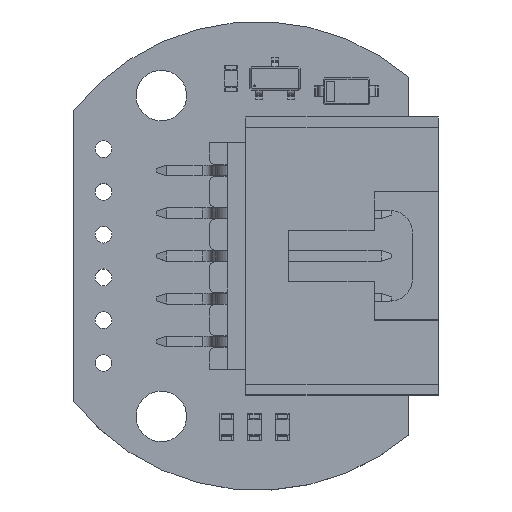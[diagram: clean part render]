
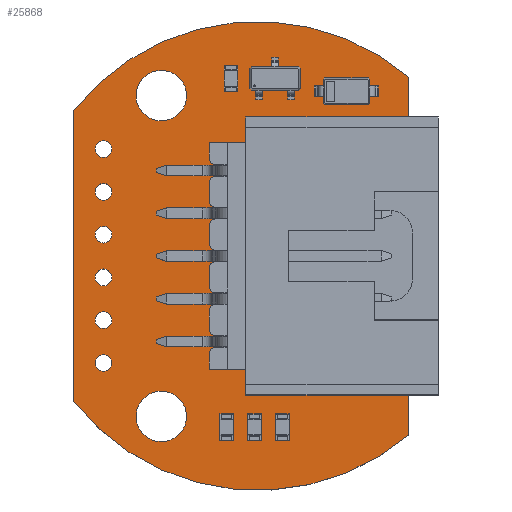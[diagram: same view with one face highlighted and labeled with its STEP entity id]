
A CAD part, top view. The second image highlights one B-rep face of the part: STEP entity #25868.
In plain terms, the highlighted planar face has unit normal (0, 0, 1).
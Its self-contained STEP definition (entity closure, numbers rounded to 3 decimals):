
#25643 = VERTEX_POINT('',#25644);
#25644 = CARTESIAN_POINT('',(219.639,-114.939,1.51));
#25650 = EDGE_CURVE('',#25643,#25651,#25653,.T.);
#25651 = VERTEX_POINT('',#25652);
#25652 = CARTESIAN_POINT('',(239.543,-112.942,1.51));
#25653 = CIRCLE('',#25654,13.91);
#25654 = AXIS2_PLACEMENT_3D('',#25655,#25656,#25657);
#25655 = CARTESIAN_POINT('',(230.556,-123.558,1.51));
#25656 = DIRECTION('',(0.,0.,-1.));
#25657 = DIRECTION('',(-0.785,0.62,0.));
#25685 = VERTEX_POINT('',#25686);
#25686 = CARTESIAN_POINT('',(219.642,-132.213,1.51));
#25692 = EDGE_CURVE('',#25685,#25643,#25693,.T.);
#25693 = LINE('',#25694,#25695);
#25694 = CARTESIAN_POINT('',(219.642,-132.213,1.51));
#25695 = VECTOR('',#25696,1.);
#25696 = DIRECTION('',(0.,1.,0.));
#25714 = EDGE_CURVE('',#25651,#25715,#25717,.T.);
#25715 = VERTEX_POINT('',#25716);
#25716 = CARTESIAN_POINT('',(239.543,-134.2,1.51));
#25717 = LINE('',#25718,#25719);
#25718 = CARTESIAN_POINT('',(239.543,-112.942,1.51));
#25719 = VECTOR('',#25720,1.);
#25720 = DIRECTION('',(0.,-1.,0.));
#25868 = ADVANCED_FACE('',(#25869,#25881,#25892,#25903,#25914,#25925,
    #25936,#25947,#25958,#25969,#25980),#25991,.T.);
#25869 = FACE_BOUND('',#25870,.T.);
#25870 = EDGE_LOOP('',(#25871,#25872,#25873,#25880));
#25871 = ORIENTED_EDGE('',*,*,#25650,.F.);
#25872 = ORIENTED_EDGE('',*,*,#25692,.F.);
#25873 = ORIENTED_EDGE('',*,*,#25874,.F.);
#25874 = EDGE_CURVE('',#25715,#25685,#25875,.T.);
#25875 = CIRCLE('',#25876,13.929);
#25876 = AXIS2_PLACEMENT_3D('',#25877,#25878,#25879);
#25877 = CARTESIAN_POINT('',(230.556,-123.558,1.51));
#25878 = DIRECTION('',(-0.,0.,-1.));
#25879 = DIRECTION('',(0.645,-0.764,-0.));
#25880 = ORIENTED_EDGE('',*,*,#25714,.F.);
#25881 = FACE_BOUND('',#25882,.T.);
#25882 = EDGE_LOOP('',(#25883));
#25883 = ORIENTED_EDGE('',*,*,#25884,.T.);
#25884 = EDGE_CURVE('',#25885,#25885,#25887,.T.);
#25885 = VERTEX_POINT('',#25886);
#25886 = CARTESIAN_POINT('',(224.841,-134.596,1.51));
#25887 = CIRCLE('',#25888,1.5);
#25888 = AXIS2_PLACEMENT_3D('',#25889,#25890,#25891);
#25889 = CARTESIAN_POINT('',(224.841,-133.096,1.51));
#25890 = DIRECTION('',(-0.,0.,-1.));
#25891 = DIRECTION('',(-0.,-1.,0.));
#25892 = FACE_BOUND('',#25893,.T.);
#25893 = EDGE_LOOP('',(#25894));
#25894 = ORIENTED_EDGE('',*,*,#25895,.T.);
#25895 = EDGE_CURVE('',#25896,#25896,#25898,.T.);
#25896 = VERTEX_POINT('',#25897);
#25897 = CARTESIAN_POINT('',(221.412,-130.421,1.51));
#25898 = CIRCLE('',#25899,0.5);
#25899 = AXIS2_PLACEMENT_3D('',#25900,#25901,#25902);
#25900 = CARTESIAN_POINT('',(221.412,-129.921,1.51));
#25901 = DIRECTION('',(-0.,0.,-1.));
#25902 = DIRECTION('',(-0.,-1.,0.));
#25903 = FACE_BOUND('',#25904,.T.);
#25904 = EDGE_LOOP('',(#25905));
#25905 = ORIENTED_EDGE('',*,*,#25906,.T.);
#25906 = EDGE_CURVE('',#25907,#25907,#25909,.T.);
#25907 = VERTEX_POINT('',#25908);
#25908 = CARTESIAN_POINT('',(221.412,-127.881,1.51));
#25909 = CIRCLE('',#25910,0.5);
#25910 = AXIS2_PLACEMENT_3D('',#25911,#25912,#25913);
#25911 = CARTESIAN_POINT('',(221.412,-127.381,1.51));
#25912 = DIRECTION('',(-0.,0.,-1.));
#25913 = DIRECTION('',(-0.,-1.,0.));
#25914 = FACE_BOUND('',#25915,.T.);
#25915 = EDGE_LOOP('',(#25916));
#25916 = ORIENTED_EDGE('',*,*,#25917,.T.);
#25917 = EDGE_CURVE('',#25918,#25918,#25920,.T.);
#25918 = VERTEX_POINT('',#25919);
#25919 = CARTESIAN_POINT('',(221.412,-125.341,1.51));
#25920 = CIRCLE('',#25921,0.5);
#25921 = AXIS2_PLACEMENT_3D('',#25922,#25923,#25924);
#25922 = CARTESIAN_POINT('',(221.412,-124.841,1.51));
#25923 = DIRECTION('',(-0.,0.,-1.));
#25924 = DIRECTION('',(-0.,-1.,0.));
#25925 = FACE_BOUND('',#25926,.T.);
#25926 = EDGE_LOOP('',(#25927));
#25927 = ORIENTED_EDGE('',*,*,#25928,.T.);
#25928 = EDGE_CURVE('',#25929,#25929,#25931,.T.);
#25929 = VERTEX_POINT('',#25930);
#25930 = CARTESIAN_POINT('',(237.178,-131.751,1.51));
#25931 = CIRCLE('',#25932,1.7);
#25932 = AXIS2_PLACEMENT_3D('',#25933,#25934,#25935);
#25933 = CARTESIAN_POINT('',(237.178,-130.051,1.51));
#25934 = DIRECTION('',(-0.,0.,-1.));
#25935 = DIRECTION('',(-0.,-1.,0.));
#25936 = FACE_BOUND('',#25937,.T.);
#25937 = EDGE_LOOP('',(#25938));
#25938 = ORIENTED_EDGE('',*,*,#25939,.T.);
#25939 = EDGE_CURVE('',#25940,#25940,#25942,.T.);
#25940 = VERTEX_POINT('',#25941);
#25941 = CARTESIAN_POINT('',(221.412,-122.801,1.51));
#25942 = CIRCLE('',#25943,0.5);
#25943 = AXIS2_PLACEMENT_3D('',#25944,#25945,#25946);
#25944 = CARTESIAN_POINT('',(221.412,-122.301,1.51));
#25945 = DIRECTION('',(-0.,0.,-1.));
#25946 = DIRECTION('',(-0.,-1.,0.));
#25947 = FACE_BOUND('',#25948,.T.);
#25948 = EDGE_LOOP('',(#25949));
#25949 = ORIENTED_EDGE('',*,*,#25950,.T.);
#25950 = EDGE_CURVE('',#25951,#25951,#25953,.T.);
#25951 = VERTEX_POINT('',#25952);
#25952 = CARTESIAN_POINT('',(221.412,-120.261,1.51));
#25953 = CIRCLE('',#25954,0.5);
#25954 = AXIS2_PLACEMENT_3D('',#25955,#25956,#25957);
#25955 = CARTESIAN_POINT('',(221.412,-119.761,1.51));
#25956 = DIRECTION('',(-0.,0.,-1.));
#25957 = DIRECTION('',(-0.,-1.,0.));
#25958 = FACE_BOUND('',#25959,.T.);
#25959 = EDGE_LOOP('',(#25960));
#25960 = ORIENTED_EDGE('',*,*,#25961,.T.);
#25961 = EDGE_CURVE('',#25962,#25962,#25964,.T.);
#25962 = VERTEX_POINT('',#25963);
#25963 = CARTESIAN_POINT('',(221.412,-117.721,1.51));
#25964 = CIRCLE('',#25965,0.5);
#25965 = AXIS2_PLACEMENT_3D('',#25966,#25967,#25968);
#25966 = CARTESIAN_POINT('',(221.412,-117.221,1.51));
#25967 = DIRECTION('',(-0.,0.,-1.));
#25968 = DIRECTION('',(-0.,-1.,0.));
#25969 = FACE_BOUND('',#25970,.T.);
#25970 = EDGE_LOOP('',(#25971));
#25971 = ORIENTED_EDGE('',*,*,#25972,.T.);
#25972 = EDGE_CURVE('',#25973,#25973,#25975,.T.);
#25973 = VERTEX_POINT('',#25974);
#25974 = CARTESIAN_POINT('',(224.841,-115.546,1.51));
#25975 = CIRCLE('',#25976,1.5);
#25976 = AXIS2_PLACEMENT_3D('',#25977,#25978,#25979);
#25977 = CARTESIAN_POINT('',(224.841,-114.046,1.51));
#25978 = DIRECTION('',(-0.,0.,-1.));
#25979 = DIRECTION('',(-0.,-1.,0.));
#25980 = FACE_BOUND('',#25981,.T.);
#25981 = EDGE_LOOP('',(#25982));
#25982 = ORIENTED_EDGE('',*,*,#25983,.T.);
#25983 = EDGE_CURVE('',#25984,#25984,#25986,.T.);
#25984 = VERTEX_POINT('',#25985);
#25985 = CARTESIAN_POINT('',(237.178,-118.791,1.51));
#25986 = CIRCLE('',#25987,1.7);
#25987 = AXIS2_PLACEMENT_3D('',#25988,#25989,#25990);
#25988 = CARTESIAN_POINT('',(237.178,-117.091,1.51));
#25989 = DIRECTION('',(-0.,0.,-1.));
#25990 = DIRECTION('',(-0.,-1.,0.));
#25991 = PLANE('',#25992);
#25992 = AXIS2_PLACEMENT_3D('',#25993,#25994,#25995);
#25993 = CARTESIAN_POINT('',(0.,0.,1.51));
#25994 = DIRECTION('',(0.,0.,1.));
#25995 = DIRECTION('',(1.,0.,-0.));
